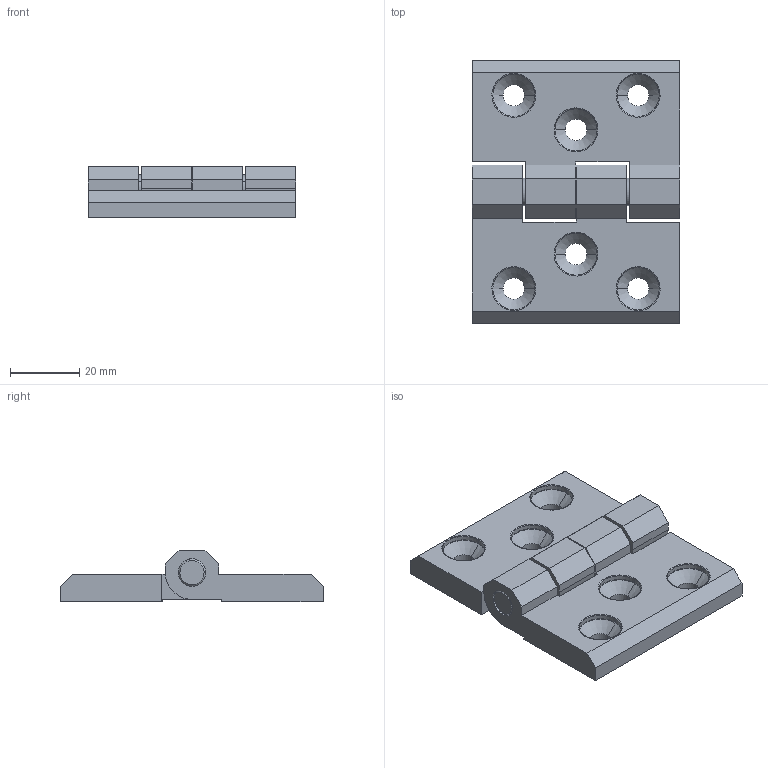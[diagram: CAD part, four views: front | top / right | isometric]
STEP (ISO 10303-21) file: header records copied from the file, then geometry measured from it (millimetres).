
FILE_DESCRIPTION (( 'STEP AP203' ), '1' );
FILE_NAME ('3.ZN66.001_.STEP', '2014-01-17T11:50:52', ( '' ), ( '' ), 'SwSTEP 2.0', 'SolidWorks 2013', '' );
FILE_SCHEMA (( 'CONFIG_CONTROL_DESIGN' ));
Length unit declared in the file: millimetre
Products named in the file (3): 3.ZN66.001.00_Domy挈na; 3.ZN66.001.01_3.ZN66.001.01; 3.ZN66.001_
Assembly tree (3 placements, depth 2):
  3.ZN66.001_
    3.ZN66.001.00_Domy挈na
    3.ZN66.001.01_3.ZN66.001.01  x2
Bounding box: 60 x 76 x 15 mm (x, y, z)
Volume: 29638.6 mm3; surface area: 18212.3 mm2
Topology: 3 solids, 3 shells, 269 faces, 657 edges, 396 vertices
Faces by surface type: plane 116, cylinder 99, bspline 38, cone 16
Entity records: 5840 total; most frequent: CARTESIAN_POINT 1490, DIRECTION 899, ORIENTED_EDGE 828, EDGE_CURVE 414, AXIS2_PLACEMENT_3D 352, VERTEX_POINT 248, LINE 195, VECTOR 195
